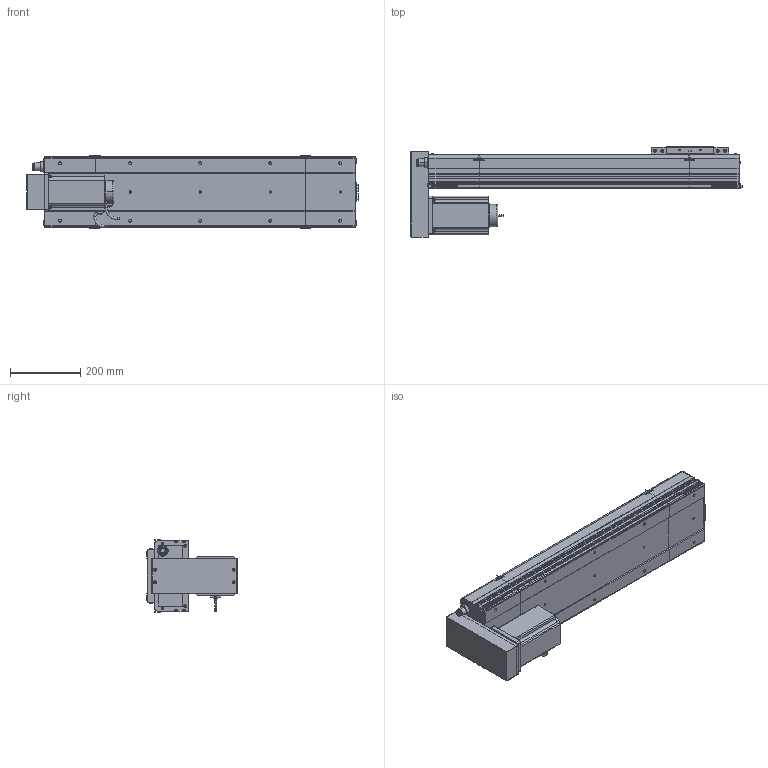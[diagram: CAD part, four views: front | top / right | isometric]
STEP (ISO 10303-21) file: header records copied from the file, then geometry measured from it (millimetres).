
FILE_DESCRIPTION (( 'STEP AP214' ), '1' );
FILE_NAME ('D20 CSH BM S600.STEP', '2010-06-30T08:04:34', ( 'Conseil Régional Haute-Normandie' ), ( 'Conseil Régional Haute-Normandie' ), 'SwSTEP 2.0', 'SolidWorks 2010', '' );
FILE_SCHEMA (( 'AUTOMOTIVE_DESIGN' ));
Length unit declared in the file: millimetre
Products named in the file (31): Plaque De Serrage Head BM D20_Default; vis M5 L15_Default; Cache Moteur BM D20_Default; vis M5 L30_Default; ecrou_Default; Couvercle Head BM_Default; Corp Head BM D20_Default; vis M5 L47_Default; clavette; D20 CSH BM S600; Couvercle_Default; Corp Tail D20_Default; Tail D20_Default; Corp D20 S600_Default; Plaque De Serrage D20_Default; Plaque de Bout Tail D20_Default; Chariot D20_Default; Couvercle S600_Default; Corp S600_Default; Glissiere_Default; Support Chariot D20_Default; Support moteur BM D20_Default; Plaque de Bout Head BM D20_Default; Head BM D20_Default; corps 110BLDC170A-630x; avant 110BLDC170A-630x; Moteur motionking 110BLDC170A-640x; Conecteur_Default; Conecteur2_Default; codeur 110BLDC170A-630x
Assembly tree (58 placements, depth 4):
  D20 CSH BM S600
    Chariot D20_Default
      vis M5 L15_Default  x8
      Support Chariot D20_Default
      Chariot D20_Default
      Glissiere_Default
    Corp D20 S600_Default
      Corp S600_Default
      Couvercle S600_Default
    Tail D20_Default
      vis M5 L15_Default  x6
      Corp Tail D20_Default
      Plaque De Serrage D20_Default
      Couvercle_Default
      Plaque de Bout Tail D20_Default
    Head BM D20_Default
      ecrou_Default  x4
      vis M5 L15_Default  x6
      Support moteur BM D20_Default
      vis M5 L47_Default  x4
      Plaque De Serrage Head BM D20_Default
      vis M5 L30_Default  x4
      Moteur motionking 110BLDC170A-640x
        Conecteur_Default
        Conecteur2_Default
        avant 110BLDC170A-630x
        corps 110BLDC170A-630x
        codeur 110BLDC170A-630x
        clavette
      Corp Head BM D20_Default
      Cache Moteur BM D20_Default
      Couvercle Head BM_Default
      Plaque de Bout Head BM D20_Default
Bounding box: 947.7 x 257.5 x 206 mm (x, y, z)
Volume: 8613278.6 mm3; surface area: 1639206.8 mm2
Topology: 95 solids, 95 shells, 3499 faces, 8815 edges, 5745 vertices
Faces by surface type: plane 1968, bspline 806, cylinder 587, torus 79, cone 59
Entity records: 156265 total; most frequent: CARTESIAN_POINT 81769, ORIENTED_EDGE 14778, DIRECTION 11003, EDGE_CURVE 7389, VERTEX_POINT 4893, LINE 4853, VECTOR 4853, EDGE_LOOP 3144
